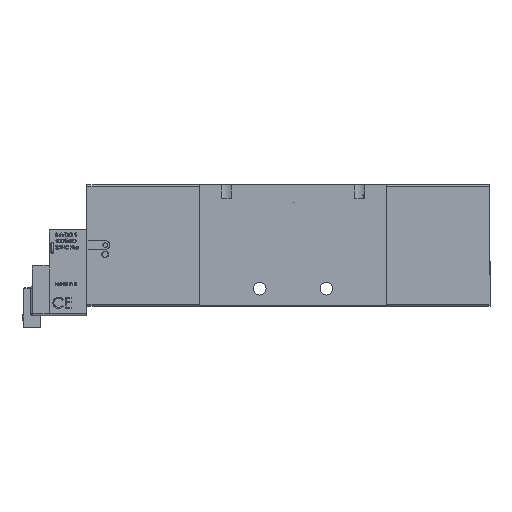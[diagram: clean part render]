
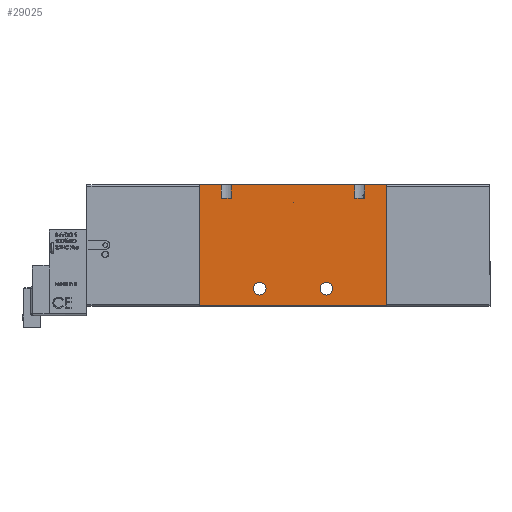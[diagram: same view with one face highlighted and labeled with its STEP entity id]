
A CAD part, top view. The second image highlights one B-rep face of the part: STEP entity #29025.
In plain terms, the highlighted planar face has unit normal (0, 0, 1).
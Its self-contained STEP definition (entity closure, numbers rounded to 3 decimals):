
#879 = EDGE_CURVE ( 'NONE', #16259, #49795, #37064, .T. ) ;
#1049 = CARTESIAN_POINT ( 'NONE',  ( 31., 0., 25. ) ) ;
#1426 = DIRECTION ( 'NONE',  ( 0., 0., -1. ) ) ;
#1694 = DIRECTION ( 'NONE',  ( 0., 1., 0. ) ) ;
#2976 = DIRECTION ( 'NONE',  ( 0., 0., 1. ) ) ;
#3106 = EDGE_CURVE ( 'NONE', #59647, #6608, #8680, .T. ) ;
#3353 = CIRCLE ( 'NONE', #14664, 2.1 ) ;
#4116 = ORIENTED_EDGE ( 'NONE', *, *, #5905, .T. ) ;
#4621 = EDGE_CURVE ( 'NONE', #6608, #57056, #59027, .T. ) ;
#4677 = VECTOR ( 'NONE', #43330, 1000. ) ;
#4803 = DIRECTION ( 'NONE',  ( 0., 0., -1. ) ) ;
#5905 = EDGE_CURVE ( 'NONE', #43969, #16044, #56612, .T. ) ;
#6305 = ORIENTED_EDGE ( 'NONE', *, *, #41759, .T. ) ;
#6419 = CIRCLE ( 'NONE', #12980, 2.1 ) ;
#6608 = VERTEX_POINT ( 'NONE', #54487 ) ;
#8129 = CARTESIAN_POINT ( 'NONE',  ( 23.622, 40., 25. ) ) ;
#8680 = LINE ( 'NONE', #48075, #42292 ) ;
#9093 = CARTESIAN_POINT ( 'NONE',  ( -31., 40., 25. ) ) ;
#10198 = EDGE_LOOP ( 'NONE', ( #61251, #59876 ) ) ;
#10610 = AXIS2_PLACEMENT_3D ( 'NONE', #33964, #4803, #38852 ) ;
#10659 = EDGE_CURVE ( 'NONE', #16012, #25133, #39032, .T. ) ;
#11385 = EDGE_CURVE ( 'NONE', #57056, #43969, #33676, .T. ) ;
#12909 = DIRECTION ( 'NONE',  ( 1., 0., 0. ) ) ;
#12980 = AXIS2_PLACEMENT_3D ( 'NONE', #56083, #26698, #61016 ) ;
#13022 = DIRECTION ( 'NONE',  ( 0., 1., 0. ) ) ;
#13448 = VERTEX_POINT ( 'NONE', #30326 ) ;
#13964 = VERTEX_POINT ( 'NONE', #41332 ) ;
#14125 = EDGE_CURVE ( 'NONE', #16044, #59166, #18073, .T. ) ;
#14664 = AXIS2_PLACEMENT_3D ( 'NONE', #32169, #2976, #37051 ) ;
#15268 = CARTESIAN_POINT ( 'NONE',  ( -23.622, 35.5, 25. ) ) ;
#15732 = DIRECTION ( 'NONE',  ( 1., 0., 0. ) ) ;
#15930 = AXIS2_PLACEMENT_3D ( 'NONE', #1049, #44953, #15732 ) ;
#16012 = VERTEX_POINT ( 'NONE', #47876 ) ;
#16044 = VERTEX_POINT ( 'NONE', #52835 ) ;
#16061 = ORIENTED_EDGE ( 'NONE', *, *, #24777, .F. ) ;
#16085 = EDGE_CURVE ( 'NONE', #13964, #16259, #43515, .T. ) ;
#16095 = FACE_BOUND ( 'NONE', #10198, .T. ) ;
#16259 = VERTEX_POINT ( 'NONE', #34782 ) ;
#16452 = VECTOR ( 'NONE', #12909, 1000. ) ;
#16987 = VERTEX_POINT ( 'NONE', #22342 ) ;
#18073 = LINE ( 'NONE', #9093, #31000 ) ;
#18586 = VECTOR ( 'NONE', #13022, 1000. ) ;
#18731 = AXIS2_PLACEMENT_3D ( 'NONE', #30591, #1426, #35465 ) ;
#19173 = LINE ( 'NONE', #38406, #4677 ) ;
#19301 = DIRECTION ( 'NONE',  ( 0., -1., 0. ) ) ;
#20401 = EDGE_CURVE ( 'NONE', #16987, #13448, #49807, .T. ) ;
#21496 = VECTOR ( 'NONE', #58251, 1000. ) ;
#21659 = LINE ( 'NONE', #63137, #59204 ) ;
#22342 = CARTESIAN_POINT ( 'NONE',  ( 8.9, 5.7, 25. ) ) ;
#22532 = CARTESIAN_POINT ( 'NONE',  ( 31., 35.5, 25. ) ) ;
#22593 = CARTESIAN_POINT ( 'NONE',  ( -20.378, 40., 25. ) ) ;
#23796 = CARTESIAN_POINT ( 'NONE',  ( 31., 0., 25. ) ) ;
#24777 = EDGE_CURVE ( 'NONE', #59647, #30315, #57726, .T. ) ;
#24817 = CARTESIAN_POINT ( 'NONE',  ( 31., 40., 25. ) ) ;
#25013 = ORIENTED_EDGE ( 'NONE', *, *, #36124, .F. ) ;
#25133 = VERTEX_POINT ( 'NONE', #22593 ) ;
#25953 = CARTESIAN_POINT ( 'NONE',  ( -20.378, 40., 25. ) ) ;
#26096 = VECTOR ( 'NONE', #1694, 1000. ) ;
#26698 = DIRECTION ( 'NONE',  ( 0., 0., 1. ) ) ;
#27425 = VERTEX_POINT ( 'NONE', #46385 ) ;
#28603 = CIRCLE ( 'NONE', #18731, 2.1 ) ;
#28638 = CARTESIAN_POINT ( 'NONE',  ( 23.622, 35.5, 25. ) ) ;
#29025 = ADVANCED_FACE ( 'NONE', ( #40460, #29028, #16095 ), #34885, .T. ) ;
#29028 = FACE_OUTER_BOUND ( 'NONE', #61719, .T. ) ;
#29086 = VECTOR ( 'NONE', #58090, 1000. ) ;
#29705 = DIRECTION ( 'NONE',  ( 0., 1., 0. ) ) ;
#30315 = VERTEX_POINT ( 'NONE', #15268 ) ;
#30326 = CARTESIAN_POINT ( 'NONE',  ( 13.1, 5.7, 25. ) ) ;
#30591 = CARTESIAN_POINT ( 'NONE',  ( 11., 5.7, 25. ) ) ;
#31000 = VECTOR ( 'NONE', #38301, 1000. ) ;
#31016 = ORIENTED_EDGE ( 'NONE', *, *, #3106, .T. ) ;
#32169 = CARTESIAN_POINT ( 'NONE',  ( -11., 5.7, 25. ) ) ;
#33676 = LINE ( 'NONE', #43215, #29086 ) ;
#33964 = CARTESIAN_POINT ( 'NONE',  ( 11., 5.7, 25. ) ) ;
#34782 = CARTESIAN_POINT ( 'NONE',  ( 20.378, 35.5, 25. ) ) ;
#34885 = PLANE ( 'NONE',  #15930 ) ;
#35465 = DIRECTION ( 'NONE',  ( -1., 0., 0. ) ) ;
#35569 = EDGE_CURVE ( 'NONE', #13448, #16987, #28603, .T. ) ;
#36124 = EDGE_CURVE ( 'NONE', #27425, #53752, #6419, .T. ) ;
#37051 = DIRECTION ( 'NONE',  ( 1., 0., 0. ) ) ;
#37064 = LINE ( 'NONE', #22532, #16452 ) ;
#37638 = EDGE_CURVE ( 'NONE', #53752, #27425, #3353, .T. ) ;
#38242 = ORIENTED_EDGE ( 'NONE', *, *, #879, .F. ) ;
#38301 = DIRECTION ( 'NONE',  ( -1., 0., 0. ) ) ;
#38406 = CARTESIAN_POINT ( 'NONE',  ( 31., 35.5, 25. ) ) ;
#38852 = DIRECTION ( 'NONE',  ( -1., 0., 0. ) ) ;
#39032 = LINE ( 'NONE', #25953, #26096 ) ;
#39674 = ORIENTED_EDGE ( 'NONE', *, *, #4621, .T. ) ;
#40460 = FACE_BOUND ( 'NONE', #59273, .T. ) ;
#41332 = CARTESIAN_POINT ( 'NONE',  ( 20.378, 40., 25. ) ) ;
#41759 = EDGE_CURVE ( 'NONE', #13964, #25133, #21659, .T. ) ;
#41807 = CARTESIAN_POINT ( 'NONE',  ( -23.622, 40., 25. ) ) ;
#41929 = VECTOR ( 'NONE', #29705, 1000. ) ;
#42292 = VECTOR ( 'NONE', #53032, 1000. ) ;
#43215 = CARTESIAN_POINT ( 'NONE',  ( -31., 0., 25. ) ) ;
#43239 = ORIENTED_EDGE ( 'NONE', *, *, #11385, .T. ) ;
#43330 = DIRECTION ( 'NONE',  ( 1., 0., 0. ) ) ;
#43515 = LINE ( 'NONE', #48506, #45043 ) ;
#43541 = DIRECTION ( 'NONE',  ( -1., 0., 0. ) ) ;
#43969 = VERTEX_POINT ( 'NONE', #23796 ) ;
#44498 = LINE ( 'NONE', #8129, #18586 ) ;
#44953 = DIRECTION ( 'NONE',  ( 0., 0., 1. ) ) ;
#45043 = VECTOR ( 'NONE', #19301, 1000. ) ;
#46152 = CARTESIAN_POINT ( 'NONE',  ( -23.622, 40., 25. ) ) ;
#46366 = ORIENTED_EDGE ( 'NONE', *, *, #16085, .F. ) ;
#46385 = CARTESIAN_POINT ( 'NONE',  ( -8.9, 5.7, 25. ) ) ;
#46749 = DIRECTION ( 'NONE',  ( 0., -1., 0. ) ) ;
#47876 = CARTESIAN_POINT ( 'NONE',  ( -20.378, 35.5, 25. ) ) ;
#48075 = CARTESIAN_POINT ( 'NONE',  ( -31., 40., 25. ) ) ;
#48506 = CARTESIAN_POINT ( 'NONE',  ( 20.378, 40., 25. ) ) ;
#49795 = VERTEX_POINT ( 'NONE', #28638 ) ;
#49807 = CIRCLE ( 'NONE', #10610, 2.1 ) ;
#50123 = ORIENTED_EDGE ( 'NONE', *, *, #58938, .F. ) ;
#50438 = ORIENTED_EDGE ( 'NONE', *, *, #37638, .F. ) ;
#52835 = CARTESIAN_POINT ( 'NONE',  ( 31., 40., 25. ) ) ;
#53032 = DIRECTION ( 'NONE',  ( -1., 0., 0. ) ) ;
#53246 = CARTESIAN_POINT ( 'NONE',  ( -31., 40., 25. ) ) ;
#53752 = VERTEX_POINT ( 'NONE', #54495 ) ;
#54437 = ORIENTED_EDGE ( 'NONE', *, *, #59983, .F. ) ;
#54487 = CARTESIAN_POINT ( 'NONE',  ( -31., 40., 25. ) ) ;
#54495 = CARTESIAN_POINT ( 'NONE',  ( -13.1, 5.7, 25. ) ) ;
#55525 = CARTESIAN_POINT ( 'NONE',  ( 23.622, 40., 25. ) ) ;
#56083 = CARTESIAN_POINT ( 'NONE',  ( -11., 5.7, 25. ) ) ;
#56196 = VECTOR ( 'NONE', #46749, 1000. ) ;
#56612 = LINE ( 'NONE', #24817, #41929 ) ;
#56795 = ORIENTED_EDGE ( 'NONE', *, *, #10659, .F. ) ;
#57056 = VERTEX_POINT ( 'NONE', #61740 ) ;
#57726 = LINE ( 'NONE', #41807, #56196 ) ;
#58090 = DIRECTION ( 'NONE',  ( 1., 0., 0. ) ) ;
#58251 = DIRECTION ( 'NONE',  ( 0., -1., 0. ) ) ;
#58938 = EDGE_CURVE ( 'NONE', #49795, #59166, #44498, .T. ) ;
#59027 = LINE ( 'NONE', #53246, #21496 ) ;
#59166 = VERTEX_POINT ( 'NONE', #55525 ) ;
#59204 = VECTOR ( 'NONE', #43541, 1000. ) ;
#59273 = EDGE_LOOP ( 'NONE', ( #25013, #50438 ) ) ;
#59647 = VERTEX_POINT ( 'NONE', #46152 ) ;
#59876 = ORIENTED_EDGE ( 'NONE', *, *, #35569, .T. ) ;
#59983 = EDGE_CURVE ( 'NONE', #30315, #16012, #19173, .T. ) ;
#60255 = ORIENTED_EDGE ( 'NONE', *, *, #14125, .T. ) ;
#61016 = DIRECTION ( 'NONE',  ( 1., 0., 0. ) ) ;
#61251 = ORIENTED_EDGE ( 'NONE', *, *, #20401, .T. ) ;
#61719 = EDGE_LOOP ( 'NONE', ( #50123, #38242, #46366, #6305, #56795, #54437, #16061, #31016, #39674, #43239, #4116, #60255 ) ) ;
#61740 = CARTESIAN_POINT ( 'NONE',  ( -31., 0., 25. ) ) ;
#63137 = CARTESIAN_POINT ( 'NONE',  ( -31., 40., 25. ) ) ;
